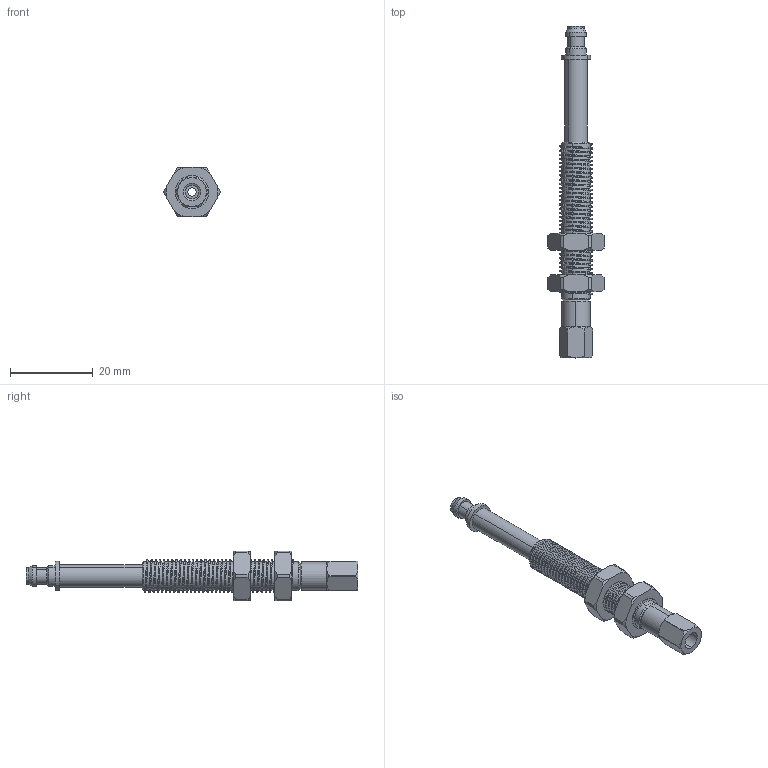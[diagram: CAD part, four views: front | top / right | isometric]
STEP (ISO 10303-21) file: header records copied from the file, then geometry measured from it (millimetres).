
FILE_DESCRIPTION (( 'STEP AP214' ), '1' );
FILE_NAME ('VFRT-20M5.STEP', '2019-11-15T08:37:59', ( '微软用户' ), ( '微软中国' ), 'SwSTEP 2.0', 'SolidWorks 2016', '' );
FILE_SCHEMA (( 'AUTOMOTIVE_DESIGN' ));
Length unit declared in the file: millimetre
Products named in the file (1): VFRT-20M5
Bounding box: 13.5 x 80 x 12 mm (x, y, z)
Volume: 2731.9 mm3; surface area: 5105.5 mm2
Topology: 5 solids, 5 shells, 213 faces, 565 edges, 368 vertices
Faces by surface type: cylinder 125, cone 49, plane 36, bspline 3
Entity records: 15674 total; most frequent: CARTESIAN_POINT 8400, ORIENTED_EDGE 1130, DIRECTION 924, EDGE_CURVE 565, VERTEX_POINT 368, AXIS2_PLACEMENT_3D 368, EDGE_LOOP 229, UNCERTAINTY_MEASURE_WITH_UNIT 220
